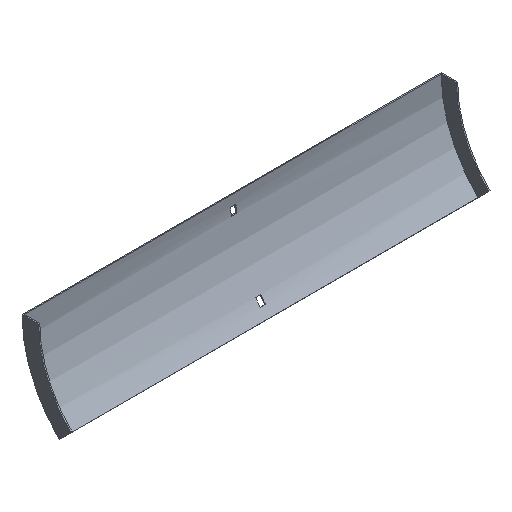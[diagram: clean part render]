
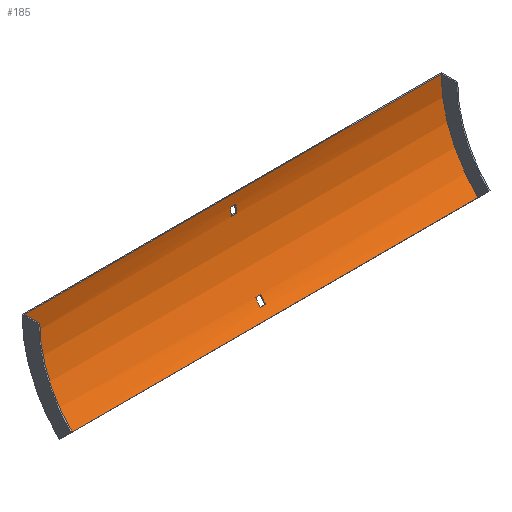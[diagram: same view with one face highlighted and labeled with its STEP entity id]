
A CAD part, isometric view. The second image highlights one B-rep face of the part: STEP entity #185.
In plain terms, the highlighted cylindrical face has radius 152 mm (diameter 304 mm), a partial arc.
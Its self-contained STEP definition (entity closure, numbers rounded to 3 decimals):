
#3 = LINE ( 'NONE', #139, #173 ) ;
#4 = VERTEX_POINT ( 'NONE', #15 ) ;
#10 = CIRCLE ( 'NONE', #16, 152. ) ;
#15 = CARTESIAN_POINT ( 'NONE',  ( -3.25, -32.201, -91.6 ) ) ;
#16 = AXIS2_PLACEMENT_3D ( 'NONE', #255, #442, #520 ) ;
#28 = DIRECTION ( 'NONE',  ( -1., 0., 0. ) ) ;
#33 = CARTESIAN_POINT ( 'NONE',  ( 253.5, -32.201, -91.6 ) ) ;
#35 = CARTESIAN_POINT ( 'NONE',  ( 3.25, -153.5, 0. ) ) ;
#36 = ORIENTED_EDGE ( 'NONE', *, *, #418, .F. ) ;
#39 = VERTEX_POINT ( 'NONE', #385 ) ;
#42 = VERTEX_POINT ( 'NONE', #335 ) ;
#44 = CARTESIAN_POINT ( 'NONE',  ( -3.25, -1.974, -12. ) ) ;
#49 = DIRECTION ( 'NONE',  ( -1., 0., 0. ) ) ;
#68 = CARTESIAN_POINT ( 'NONE',  ( -252., -1.5, 0. ) ) ;
#82 = LINE ( 'NONE', #550, #326 ) ;
#93 = CARTESIAN_POINT ( 'NONE',  ( 3.25, -37.87, -98.659 ) ) ;
#95 = EDGE_CURVE ( 'NONE', #482, #372, #311, .T. ) ;
#99 = LINE ( 'NONE', #146, #343 ) ;
#115 = DIRECTION ( 'NONE',  ( 0., 0., 1. ) ) ;
#120 = EDGE_CURVE ( 'NONE', #4, #462, #587, .T. ) ;
#127 = EDGE_LOOP ( 'NONE', ( #280, #299, #574, #522 ) ) ;
#128 = DIRECTION ( 'NONE',  ( 1., 0., 0. ) ) ;
#129 = DIRECTION ( 'NONE',  ( -1., 0., 0. ) ) ;
#133 = CARTESIAN_POINT ( 'NONE',  ( -3.25, -153.5, 0. ) ) ;
#139 = CARTESIAN_POINT ( 'NONE',  ( 252., -46.02, -107.48 ) ) ;
#143 = EDGE_CURVE ( 'NONE', #39, #482, #405, .T. ) ;
#144 = ORIENTED_EDGE ( 'NONE', *, *, #437, .F. ) ;
#146 = CARTESIAN_POINT ( 'NONE',  ( 253.5, -2.958, -21. ) ) ;
#158 = VECTOR ( 'NONE', #591, 1000. ) ;
#169 = EDGE_CURVE ( 'NONE', #447, #348, #583, .T. ) ;
#173 = VECTOR ( 'NONE', #573, 1000. ) ;
#177 = CARTESIAN_POINT ( 'NONE',  ( 252., -153.5, 0. ) ) ;
#179 = EDGE_CURVE ( 'NONE', #348, #504, #601, .T. ) ;
#182 = CARTESIAN_POINT ( 'NONE',  ( 253.5, -153.5, 0. ) ) ;
#183 = CIRCLE ( 'NONE', #207, 152. ) ;
#185 = ADVANCED_FACE ( 'NONE', ( #518, #566, #371 ), #468, .F. ) ;
#195 = EDGE_CURVE ( 'NONE', #504, #216, #289, .T. ) ;
#199 = AXIS2_PLACEMENT_3D ( 'NONE', #177, #128, #115 ) ;
#202 = EDGE_CURVE ( 'NONE', #42, #4, #524, .T. ) ;
#207 = AXIS2_PLACEMENT_3D ( 'NONE', #35, #129, #260 ) ;
#209 = ORIENTED_EDGE ( 'NONE', *, *, #143, .T. ) ;
#216 = VERTEX_POINT ( 'NONE', #382 ) ;
#228 = ORIENTED_EDGE ( 'NONE', *, *, #95, .T. ) ;
#241 = CARTESIAN_POINT ( 'NONE',  ( 252., -1.5, 0. ) ) ;
#247 = ORIENTED_EDGE ( 'NONE', *, *, #376, .F. ) ;
#255 = CARTESIAN_POINT ( 'NONE',  ( -252., -153.5, 0. ) ) ;
#260 = DIRECTION ( 'NONE',  ( 0., 0., 1. ) ) ;
#265 = CARTESIAN_POINT ( 'NONE',  ( 3.25, -1.974, -12. ) ) ;
#275 = CARTESIAN_POINT ( 'NONE',  ( 253.5, -1.974, -12. ) ) ;
#276 = AXIS2_PLACEMENT_3D ( 'NONE', #402, #356, #450 ) ;
#280 = ORIENTED_EDGE ( 'NONE', *, *, #298, .T. ) ;
#289 = CIRCLE ( 'NONE', #543, 152. ) ;
#295 = VECTOR ( 'NONE', #49, 1000. ) ;
#298 = EDGE_CURVE ( 'NONE', #495, #42, #82, .T. ) ;
#299 = ORIENTED_EDGE ( 'NONE', *, *, #202, .T. ) ;
#311 = LINE ( 'NONE', #399, #158 ) ;
#314 = DIRECTION ( 'NONE',  ( -1., 0., 0. ) ) ;
#316 = ORIENTED_EDGE ( 'NONE', *, *, #179, .F. ) ;
#317 = EDGE_CURVE ( 'NONE', #462, #495, #183, .T. ) ;
#326 = VECTOR ( 'NONE', #28, 1000. ) ;
#335 = CARTESIAN_POINT ( 'NONE',  ( -3.25, -37.87, -98.659 ) ) ;
#343 = VECTOR ( 'NONE', #604, 1000. ) ;
#346 = DIRECTION ( 'NONE',  ( 1., 0., 0. ) ) ;
#348 = VERTEX_POINT ( 'NONE', #265 ) ;
#356 = DIRECTION ( 'NONE',  ( 1., 0., 0. ) ) ;
#360 = DIRECTION ( 'NONE',  ( 0., 0., 1. ) ) ;
#365 = DIRECTION ( 'NONE',  ( 0., 0., 1. ) ) ;
#371 = FACE_BOUND ( 'NONE', #127, .T. ) ;
#372 = VERTEX_POINT ( 'NONE', #68 ) ;
#375 = CARTESIAN_POINT ( 'NONE',  ( 3.25, -2.958, -21. ) ) ;
#376 = EDGE_CURVE ( 'NONE', #422, #372, #10, .T. ) ;
#378 = DIRECTION ( 'NONE',  ( 1., 0., 0. ) ) ;
#379 = AXIS2_PLACEMENT_3D ( 'NONE', #182, #465, #360 ) ;
#382 = CARTESIAN_POINT ( 'NONE',  ( -3.25, -2.958, -21. ) ) ;
#385 = CARTESIAN_POINT ( 'NONE',  ( 252., -46.02, -107.48 ) ) ;
#399 = CARTESIAN_POINT ( 'NONE',  ( 252., -1.5, 0. ) ) ;
#402 = CARTESIAN_POINT ( 'NONE',  ( 3.25, -153.5, 0. ) ) ;
#405 = CIRCLE ( 'NONE', #199, 152. ) ;
#418 = EDGE_CURVE ( 'NONE', #39, #422, #3, .T. ) ;
#422 = VERTEX_POINT ( 'NONE', #556 ) ;
#437 = EDGE_CURVE ( 'NONE', #216, #447, #99, .T. ) ;
#442 = DIRECTION ( 'NONE',  ( 1., 0., 0. ) ) ;
#447 = VERTEX_POINT ( 'NONE', #375 ) ;
#450 = DIRECTION ( 'NONE',  ( 0., 0., -1. ) ) ;
#452 = AXIS2_PLACEMENT_3D ( 'NONE', #562, #378, #503 ) ;
#457 = EDGE_LOOP ( 'NONE', ( #247, #36, #209, #228 ) ) ;
#462 = VERTEX_POINT ( 'NONE', #565 ) ;
#465 = DIRECTION ( 'NONE',  ( -1., 0., 0. ) ) ;
#468 = CYLINDRICAL_SURFACE ( 'NONE', #379, 152. ) ;
#474 = ORIENTED_EDGE ( 'NONE', *, *, #195, .F. ) ;
#482 = VERTEX_POINT ( 'NONE', #241 ) ;
#495 = VERTEX_POINT ( 'NONE', #93 ) ;
#503 = DIRECTION ( 'NONE',  ( 0., 0., -1. ) ) ;
#504 = VERTEX_POINT ( 'NONE', #44 ) ;
#509 = EDGE_LOOP ( 'NONE', ( #474, #316, #576, #144 ) ) ;
#510 = VECTOR ( 'NONE', #346, 1000. ) ;
#518 = FACE_BOUND ( 'NONE', #509, .T. ) ;
#520 = DIRECTION ( 'NONE',  ( 0., 0., 1. ) ) ;
#522 = ORIENTED_EDGE ( 'NONE', *, *, #317, .T. ) ;
#524 = CIRCLE ( 'NONE', #452, 152. ) ;
#543 = AXIS2_PLACEMENT_3D ( 'NONE', #133, #314, #365 ) ;
#550 = CARTESIAN_POINT ( 'NONE',  ( 253.5, -37.87, -98.659 ) ) ;
#556 = CARTESIAN_POINT ( 'NONE',  ( -252., -46.02, -107.48 ) ) ;
#562 = CARTESIAN_POINT ( 'NONE',  ( -3.25, -153.5, 0. ) ) ;
#565 = CARTESIAN_POINT ( 'NONE',  ( 3.25, -32.201, -91.6 ) ) ;
#566 = FACE_OUTER_BOUND ( 'NONE', #457, .T. ) ;
#573 = DIRECTION ( 'NONE',  ( -1., 0., 0. ) ) ;
#574 = ORIENTED_EDGE ( 'NONE', *, *, #120, .T. ) ;
#576 = ORIENTED_EDGE ( 'NONE', *, *, #169, .F. ) ;
#583 = CIRCLE ( 'NONE', #276, 152. ) ;
#587 = LINE ( 'NONE', #33, #510 ) ;
#591 = DIRECTION ( 'NONE',  ( -1., 0., 0. ) ) ;
#601 = LINE ( 'NONE', #275, #295 ) ;
#604 = DIRECTION ( 'NONE',  ( 1., 0., 0. ) ) ;
